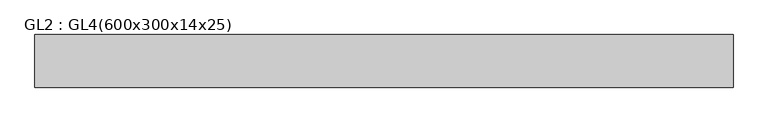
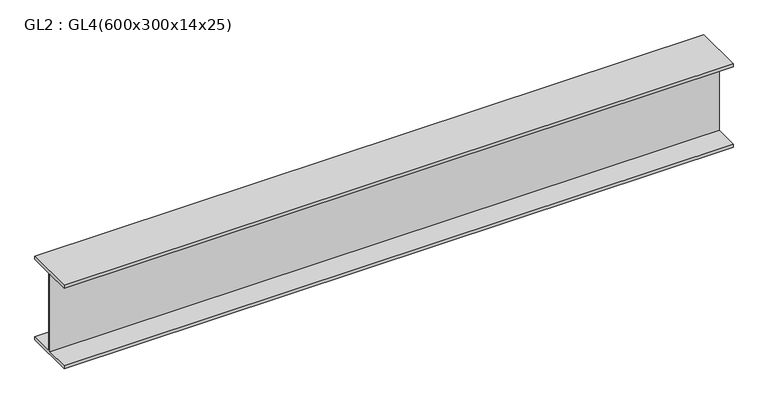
"""IFC4 building model written with IfcOpenShell, lengths in millimetres: beam geometry, GL2 : GL4(600x300x14x25)."""

from ifc_helpers import new_model, si_unit, frame, origin, place, context, project, spatial, polyline, outline, extrude, source, transform, mapped, element, save


def gl2_gl4_600x300x14x25_b6e8a6bf(model_context):
    return source(origin(), model_context, "Body", "SweptSolid", [
        extrude(outline(polyline([(200.0, 350.0), (200.0, 325.0), (7.0, 325.0), (7.0, -325.0), (200.0, -325.0), (200.0, -350.0), (-200.0, -350.0), (-200.0, -325.0), (-7.0, -325.0), (-7.0, 325.0), (-200.0, 325.0), (-200.0, 350.0), (200.0, 350.0)])), frame((-2653.2212968, 0.0, 0.0), z_axis=(1.0, 0.0, 0.0), x_axis=(0.0, 1.0, 0.0)), (0.0, 0.0, 1.0), 5306.4425935),
    ])


if __name__ == "__main__":
    model = new_model("IFC4")
    model_context = context("Model", 3, world=origin())
    ifc_project = project(units=[si_unit("LENGTHUNIT", "METRE", prefix="MILLI")], contexts=[model_context])
    site = spatial("IfcSite", under=ifc_project)
    building = spatial("IfcBuilding", under=site)
    placement = place(None, origin())
    gl2_gl4_600x300x14x25_shape = gl2_gl4_600x300x14x25_b6e8a6bf(model_context)
    element("IfcBeam", 1, ObjectType="GL2 : GL4(600x300x14x25)", at=placement, inside=building, context=model_context, shape_type="MappedRepresentation", body=[
        mapped(gl2_gl4_600x300x14x25_shape, transform((0.0, 0.0, 0.0), x_axis=(1.0, 0.0, 0.0), y_axis=(0.0, 1.0, 0.0), z_axis=(0.0, 0.0, 1.0))),
    ])
    save(model, "model.ifc")
